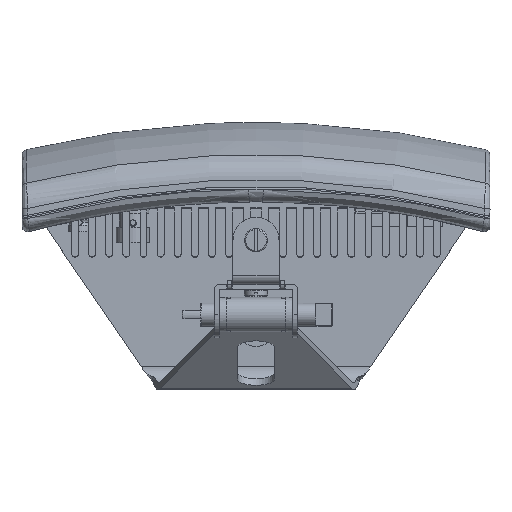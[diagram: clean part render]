
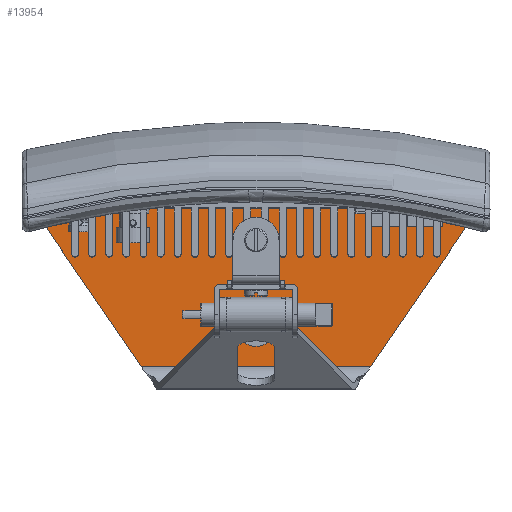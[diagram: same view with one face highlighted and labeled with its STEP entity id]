
A CAD part, top view. The second image highlights one B-rep face of the part: STEP entity #13954.
In plain terms, the highlighted planar face has unit normal (0, 0, 1) as drawn and (0, 1, 0) by its records, which use the part's own axes.
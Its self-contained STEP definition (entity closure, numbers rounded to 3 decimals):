
#603 = AXIS2_PLACEMENT_3D ( 'NONE', #66358, #18592, #61126 ) ;
#793 = EDGE_CURVE ( 'NONE', #33894, #3005, #9193, .T. ) ;
#1076 = DIRECTION ( 'NONE',  ( 0., 1., 0. ) ) ;
#1328 = ORIENTED_EDGE ( 'NONE', *, *, #793, .T. ) ;
#2140 = VERTEX_POINT ( 'NONE', #4499 ) ;
#2453 = DIRECTION ( 'NONE',  ( 0., 1., 0. ) ) ;
#2714 = DIRECTION ( 'NONE',  ( 0.825, 0., 0.565 ) ) ;
#2927 = DIRECTION ( 'NONE',  ( 0., 0., 1. ) ) ;
#3005 = VERTEX_POINT ( 'NONE', #14964 ) ;
#4290 = DIRECTION ( 'NONE',  ( 0., 1., 0. ) ) ;
#4499 = CARTESIAN_POINT ( 'NONE',  ( 85., 3., -89.5 ) ) ;
#4640 = CARTESIAN_POINT ( 'NONE',  ( 85., 3., 89.5 ) ) ;
#4756 = LINE ( 'NONE', #57052, #8228 ) ;
#5484 = AXIS2_PLACEMENT_3D ( 'NONE', #21871, #51628, #48704 ) ;
#6212 = EDGE_CURVE ( 'NONE', #24162, #49628, #20151, .T. ) ;
#6405 = ORIENTED_EDGE ( 'NONE', *, *, #34705, .F. ) ;
#7242 = EDGE_CURVE ( 'NONE', #60021, #3005, #65158, .T. ) ;
#8228 = VECTOR ( 'NONE', #40661, 1000. ) ;
#8298 = CARTESIAN_POINT ( 'NONE',  ( 85., 3., 83. ) ) ;
#8331 = EDGE_CURVE ( 'NONE', #66528, #17041, #4756, .T. ) ;
#8481 = CARTESIAN_POINT ( 'NONE',  ( 85., 3., 76.5 ) ) ;
#8978 = AXIS2_PLACEMENT_3D ( 'NONE', #8298, #14909, #45946 ) ;
#9193 = CIRCLE ( 'NONE', #64839, 490. ) ;
#9222 = VERTEX_POINT ( 'NONE', #10158 ) ;
#10158 = CARTESIAN_POINT ( 'NONE',  ( 31., 3., 6.5 ) ) ;
#10178 = DIRECTION ( 'NONE',  ( 0.985, 0., 0.174 ) ) ;
#12364 = DIRECTION ( 'NONE',  ( 0., 1., 0. ) ) ;
#12914 = FACE_BOUND ( 'NONE', #57648, .T. ) ;
#13823 = CARTESIAN_POINT ( 'NONE',  ( 14.281, 3., -49.769 ) ) ;
#13954 = ADVANCED_FACE ( 'NONE', ( #40080, #60681, #12914, #34166 ), #28922, .T. ) ;
#13996 = CARTESIAN_POINT ( 'NONE',  ( 97.31, 3., 85.173 ) ) ;
#14245 = ORIENTED_EDGE ( 'NONE', *, *, #6212, .T. ) ;
#14858 = CARTESIAN_POINT ( 'NONE',  ( 77.943, 3., 93.317 ) ) ;
#14909 = DIRECTION ( 'NONE',  ( 0., 1., 0. ) ) ;
#14964 = CARTESIAN_POINT ( 'NONE',  ( 97.31, 3., -85.173 ) ) ;
#15417 = DIRECTION ( 'NONE',  ( 0., 0., -1. ) ) ;
#16467 = VERTEX_POINT ( 'NONE', #53030 ) ;
#16919 = AXIS2_PLACEMENT_3D ( 'NONE', #45110, #12364, #2927 ) ;
#17041 = VERTEX_POINT ( 'NONE', #36849 ) ;
#18592 = DIRECTION ( 'NONE',  ( 0., -1., 0. ) ) ;
#20151 = LINE ( 'NONE', #45239, #59573 ) ;
#21520 = ORIENTED_EDGE ( 'NONE', *, *, #21904, .F. ) ;
#21871 = CARTESIAN_POINT ( 'NONE',  ( 85., 3., 83. ) ) ;
#21904 = EDGE_CURVE ( 'NONE', #9222, #37211, #59738, .T. ) ;
#22615 = CARTESIAN_POINT ( 'NONE',  ( 31., 3., 0. ) ) ;
#22865 = AXIS2_PLACEMENT_3D ( 'NONE', #29864, #55324, #60582 ) ;
#23281 = DIRECTION ( 'NONE',  ( 0., 1., 0. ) ) ;
#24162 = VERTEX_POINT ( 'NONE', #36381 ) ;
#24217 = EDGE_CURVE ( 'NONE', #66528, #24162, #31831, .T. ) ;
#26719 = CIRCLE ( 'NONE', #35654, 12.5 ) ;
#26756 = CIRCLE ( 'NONE', #34575, 6.5 ) ;
#27573 = ORIENTED_EDGE ( 'NONE', *, *, #8331, .F. ) ;
#28105 = AXIS2_PLACEMENT_3D ( 'NONE', #61131, #4290, #15417 ) ;
#28843 = DIRECTION ( 'NONE',  ( 0., 0., -1. ) ) ;
#28922 = PLANE ( 'NONE',  #66389 ) ;
#29864 = CARTESIAN_POINT ( 'NONE',  ( 85., 3., 83. ) ) ;
#30812 = DIRECTION ( 'NONE',  ( -0.565, 0., -0.825 ) ) ;
#31831 = LINE ( 'NONE', #41953, #36488 ) ;
#32410 = VERTEX_POINT ( 'NONE', #4640 ) ;
#32414 = ORIENTED_EDGE ( 'NONE', *, *, #7242, .F. ) ;
#32679 = EDGE_CURVE ( 'NONE', #38001, #32410, #45579, .T. ) ;
#33572 = ORIENTED_EDGE ( 'NONE', *, *, #67791, .F. ) ;
#33894 = VERTEX_POINT ( 'NONE', #13996 ) ;
#34166 = FACE_OUTER_BOUND ( 'NONE', #40194, .T. ) ;
#34507 = DIRECTION ( 'NONE',  ( 1., 0., 0. ) ) ;
#34572 = EDGE_CURVE ( 'NONE', #37211, #9222, #26756, .T. ) ;
#34575 = AXIS2_PLACEMENT_3D ( 'NONE', #22615, #43880, #28843 ) ;
#34705 = EDGE_CURVE ( 'NONE', #32410, #38001, #40142, .T. ) ;
#35637 = CARTESIAN_POINT ( 'NONE',  ( 85., 3., -95.5 ) ) ;
#35654 = AXIS2_PLACEMENT_3D ( 'NONE', #68150, #51750, #30812 ) ;
#35844 = CIRCLE ( 'NONE', #16919, 6.5 ) ;
#36381 = CARTESIAN_POINT ( 'NONE',  ( 14.281, 3., 49.769 ) ) ;
#36488 = VECTOR ( 'NONE', #53089, 1000. ) ;
#36644 = EDGE_LOOP ( 'NONE', ( #6405, #53570 ) ) ;
#36849 = CARTESIAN_POINT ( 'NONE',  ( 77.943, 3., -93.317 ) ) ;
#36851 = EDGE_CURVE ( 'NONE', #16467, #2140, #35844, .T. ) ;
#37211 = VERTEX_POINT ( 'NONE', #53082 ) ;
#37365 = ORIENTED_EDGE ( 'NONE', *, *, #53114, .F. ) ;
#38001 = VERTEX_POINT ( 'NONE', #8481 ) ;
#39408 = ORIENTED_EDGE ( 'NONE', *, *, #41711, .F. ) ;
#40080 = FACE_BOUND ( 'NONE', #50584, .T. ) ;
#40142 = CIRCLE ( 'NONE', #8978, 6.5 ) ;
#40194 = EDGE_LOOP ( 'NONE', ( #33572, #27573, #54883, #14245, #39408, #1328, #32414 ) ) ;
#40661 = DIRECTION ( 'NONE',  ( 0.825, 0., -0.565 ) ) ;
#41711 = EDGE_CURVE ( 'NONE', #33894, #49628, #42870, .T. ) ;
#41953 = CARTESIAN_POINT ( 'NONE',  ( 14.281, 3., -49.769 ) ) ;
#42870 = CIRCLE ( 'NONE', #22865, 12.5 ) ;
#43880 = DIRECTION ( 'NONE',  ( 0., 1., 0. ) ) ;
#44140 = AXIS2_PLACEMENT_3D ( 'NONE', #66870, #23281, #61288 ) ;
#45110 = CARTESIAN_POINT ( 'NONE',  ( 85., 3., -83. ) ) ;
#45239 = CARTESIAN_POINT ( 'NONE',  ( 14.281, 3., 49.769 ) ) ;
#45579 = CIRCLE ( 'NONE', #5484, 6.5 ) ;
#45699 = ORIENTED_EDGE ( 'NONE', *, *, #36851, .F. ) ;
#45946 = DIRECTION ( 'NONE',  ( 0., 0., 1. ) ) ;
#48704 = DIRECTION ( 'NONE',  ( 0., 0., -1. ) ) ;
#49628 = VERTEX_POINT ( 'NONE', #14858 ) ;
#50214 = CARTESIAN_POINT ( 'NONE',  ( 105., 3., -95.5 ) ) ;
#50584 = EDGE_LOOP ( 'NONE', ( #21520, #60794 ) ) ;
#51628 = DIRECTION ( 'NONE',  ( 0., 1., 0. ) ) ;
#51750 = DIRECTION ( 'NONE',  ( 0., -1., 0. ) ) ;
#53030 = CARTESIAN_POINT ( 'NONE',  ( 85., 3., -76.5 ) ) ;
#53082 = CARTESIAN_POINT ( 'NONE',  ( 31., 3., -6.5 ) ) ;
#53089 = DIRECTION ( 'NONE',  ( 0., 0., 1. ) ) ;
#53114 = EDGE_CURVE ( 'NONE', #2140, #16467, #62671, .T. ) ;
#53570 = ORIENTED_EDGE ( 'NONE', *, *, #32679, .F. ) ;
#54883 = ORIENTED_EDGE ( 'NONE', *, *, #24217, .T. ) ;
#55324 = DIRECTION ( 'NONE',  ( 0., -1., 0. ) ) ;
#57052 = CARTESIAN_POINT ( 'NONE',  ( 14.281, 3., -49.769 ) ) ;
#57648 = EDGE_LOOP ( 'NONE', ( #45699, #37365 ) ) ;
#58611 = CARTESIAN_POINT ( 'NONE',  ( -385.231, 3., 0. ) ) ;
#59573 = VECTOR ( 'NONE', #2714, 1000. ) ;
#59738 = CIRCLE ( 'NONE', #44140, 6.5 ) ;
#60021 = VERTEX_POINT ( 'NONE', #35637 ) ;
#60582 = DIRECTION ( 'NONE',  ( 0.985, 0., 0.174 ) ) ;
#60681 = FACE_BOUND ( 'NONE', #36644, .T. ) ;
#60794 = ORIENTED_EDGE ( 'NONE', *, *, #34572, .F. ) ;
#61126 = DIRECTION ( 'NONE',  ( -0.565, 0., -0.825 ) ) ;
#61131 = CARTESIAN_POINT ( 'NONE',  ( 85., 3., -83. ) ) ;
#61288 = DIRECTION ( 'NONE',  ( 0., 0., 1. ) ) ;
#62671 = CIRCLE ( 'NONE', #28105, 6.5 ) ;
#64839 = AXIS2_PLACEMENT_3D ( 'NONE', #58611, #1076, #10178 ) ;
#65158 = CIRCLE ( 'NONE', #603, 12.5 ) ;
#66358 = CARTESIAN_POINT ( 'NONE',  ( 85., 3., -83. ) ) ;
#66389 = AXIS2_PLACEMENT_3D ( 'NONE', #50214, #2453, #34507 ) ;
#66528 = VERTEX_POINT ( 'NONE', #13823 ) ;
#66870 = CARTESIAN_POINT ( 'NONE',  ( 31., 3., 0. ) ) ;
#67791 = EDGE_CURVE ( 'NONE', #17041, #60021, #26719, .T. ) ;
#68150 = CARTESIAN_POINT ( 'NONE',  ( 85., 3., -83. ) ) ;
